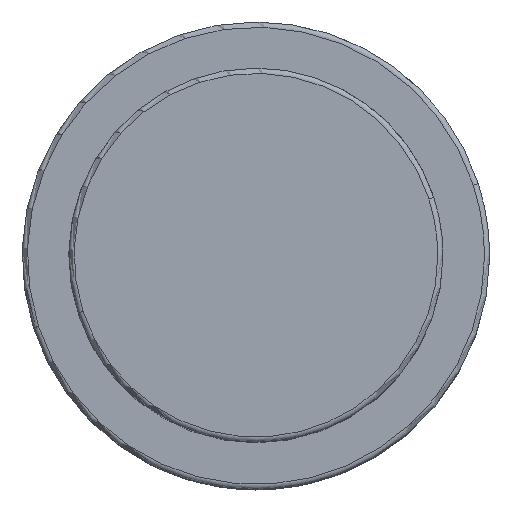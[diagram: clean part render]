
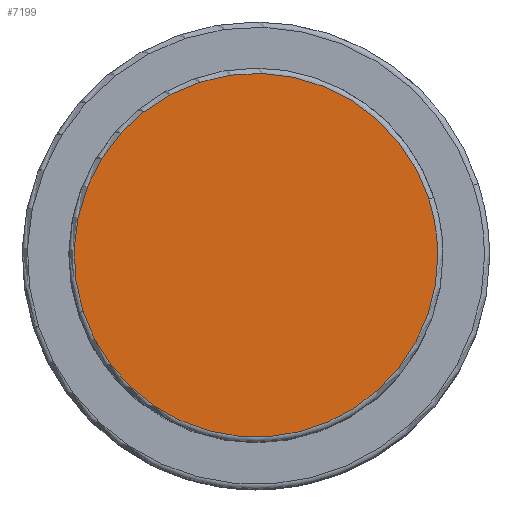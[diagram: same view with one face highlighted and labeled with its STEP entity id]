
A CAD part, top view. The second image highlights one B-rep face of the part: STEP entity #7199.
In plain terms, the highlighted planar face has unit normal (0, 0, 1).
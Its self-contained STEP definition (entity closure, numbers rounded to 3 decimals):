
#7165=CARTESIAN_POINT('',(17.5,0.0,58.0));
#7166=VERTEX_POINT('',#7165);
#7167=CARTESIAN_POINT('',(16.643,5.408,58.0));
#7168=VERTEX_POINT('',#7167);
#7169=CARTESIAN_POINT('',(0.0,0.0,58.0));
#7170=DIRECTION('',(0.0,0.0,1.0));
#7171=DIRECTION('',(1.0,0.0,0.0));
#7172=AXIS2_PLACEMENT_3D('',#7169,#7170,#7171);
#7173=CIRCLE('',#7172,17.5);
#7174=EDGE_CURVE('no 3603',#7166,#7168,#7173,.T.);
#7175=ORIENTED_EDGE('',*,*,#7174,.T.);
#7176=CARTESIAN_POINT('',(-16.643,-5.408,58.0));
#7177=VERTEX_POINT('',#7176);
#7178=CARTESIAN_POINT('',(0.0,0.0,58.0));
#7179=DIRECTION('',(0.0,0.0,1.0));
#7180=DIRECTION('',(1.0,0.0,0.0));
#7181=AXIS2_PLACEMENT_3D('',#7178,#7179,#7180);
#7182=CIRCLE('',#7181,17.5);
#7183=EDGE_CURVE('no 3609',#7168,#7177,#7182,.T.);
#7184=ORIENTED_EDGE('',*,*,#7183,.T.);
#7185=CARTESIAN_POINT('',(0.0,0.0,58.0));
#7186=DIRECTION('',(0.0,0.0,1.0));
#7187=DIRECTION('',(1.0,0.0,0.0));
#7188=AXIS2_PLACEMENT_3D('',#7185,#7186,#7187);
#7189=CIRCLE('',#7188,17.5);
#7190=EDGE_CURVE('no 3613',#7177,#7166,#7189,.T.);
#7191=ORIENTED_EDGE('',*,*,#7190,.T.);
#7192=EDGE_LOOP('',(#7175,#7184,#7191));
#7193=FACE_OUTER_BOUND('',#7192,.T.);
#7194=CARTESIAN_POINT('',(0.0,0.0,58.0));
#7195=DIRECTION('',(0.0,0.0,1.0));
#7196=DIRECTION('',(1.0,0.0,0.0));
#7197=AXIS2_PLACEMENT_3D('',#7194,#7195,#7196);
#7198=PLANE('',#7197);
#7199=ADVANCED_FACE('no 3594',(#7193),#7198,.T.);
